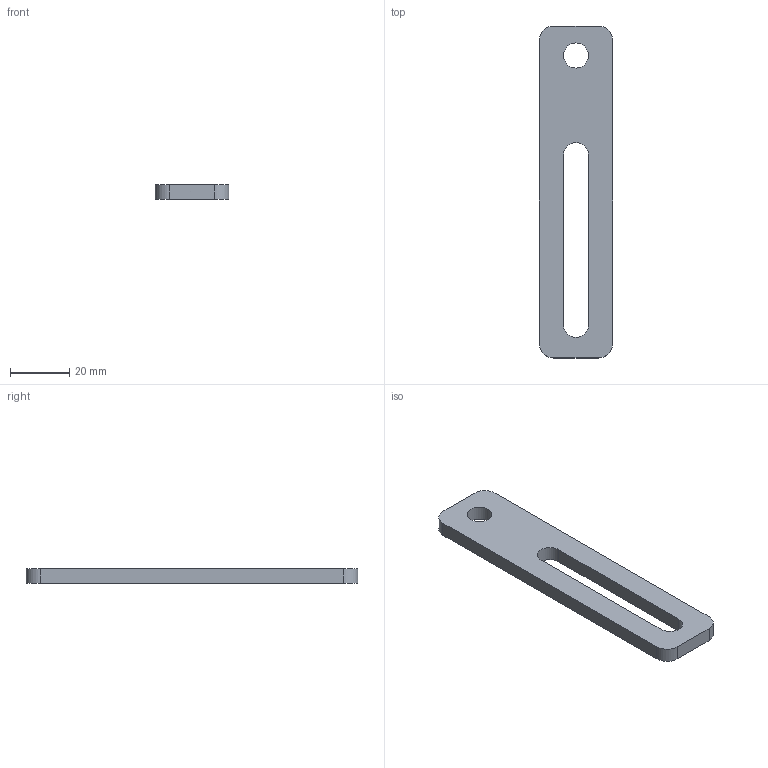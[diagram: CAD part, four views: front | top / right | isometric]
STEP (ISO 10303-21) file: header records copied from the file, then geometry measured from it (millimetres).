
FILE_DESCRIPTION(/* description */ ('Zijgeleiding houder GMB15 SGCT'),/* implementation_level */ '2;1');
FILE_NAME(/* name */ 'SG1200021001.stp',/* time_stamp */ '2024-02-07T14:00:17+01:00',/* author */ ('r.biemans'),/* organization */ ('BCK Holland b.v.'),/* preprocessor_version */ 'ST-DEVELOPER v19.2',/* originating_system */ 'Autodesk Inventor 2023',/* authorisation */ '');
FILE_SCHEMA (('AUTOMOTIVE_DESIGN { 1 0 10303 214 3 1 1 }'));
Length unit declared in the file: millimetre
Products named in the file (1): SG1200021001
Bounding box: 25 x 112.5 x 5 mm (x, y, z)
Volume: 10944 mm3; surface area: 6551.7 mm2
Topology: 1 solids, 1 shells, 15 faces, 39 edges, 26 vertices
Faces by surface type: plane 8, cylinder 7
Full cylindrical faces by diameter (mm): 8.5 x1
Entity records: 518 total; most frequent: DIRECTION 85, CARTESIAN_POINT 81, ORIENTED_EDGE 78, EDGE_CURVE 39, AXIS2_PLACEMENT_3D 30, VERTEX_POINT 26, LINE 25, VECTOR 25
